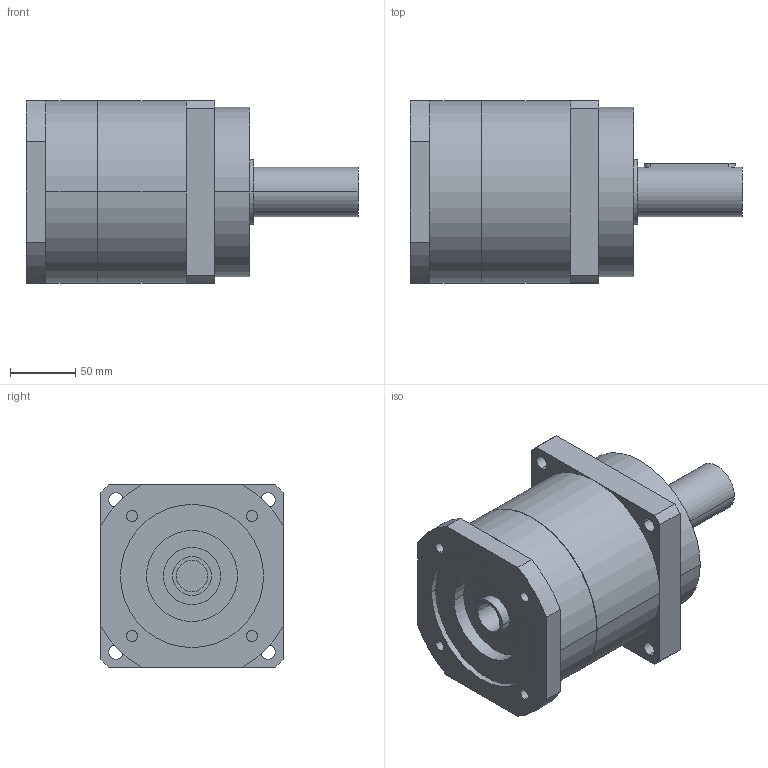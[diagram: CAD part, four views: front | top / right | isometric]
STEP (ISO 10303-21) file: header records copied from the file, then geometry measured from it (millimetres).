
FILE_DESCRIPTION(('CoCreate Modeling STEP Export'),'2;1');
FILE_NAME('GPR150_ig-3-4-5-7_38_B5_24_P04.stp','2014-08-19T16:42:23',(''),(''),'CoCreate Modeling STEP processor for AP214 (Solid Model)','CoCreate Modeling 16.00C 25-Feb-2009 (C) Parametric Technology GmbH','');
FILE_SCHEMA(('AUTOMOTIVE_DESIGN { 1 0 10303 214 1 1 1 1 }'));
Length unit declared in the file: millimetre
Products named in the file (2): GPR150_ig-3-4-5-7_38_B5_24_P04
Assembly tree (1 placements, depth 2):
  GPR150_ig-3-4-5-7_38_B5_24_P04
    GPR150_ig-3-4-5-7_38_B5_24_P04
Bounding box: 255 x 140 x 140 mm (x, y, z)
Volume: 2701765.8 mm3; surface area: 147197.7 mm2
Topology: 1 solids, 1 shells, 97 faces, 263 edges, 177 vertices
Faces by surface type: cylinder 56, plane 35, cone 6
Entity records: 2693 total; most frequent: ORIENTED_EDGE 522, CARTESIAN_POINT 487, DIRECTION 380, EDGE_CURVE 261, VERTEX_POINT 177, AXIS2_PLACEMENT_3D 142, EDGE_LOOP 124, FACE_OUTER_BOUND 97
